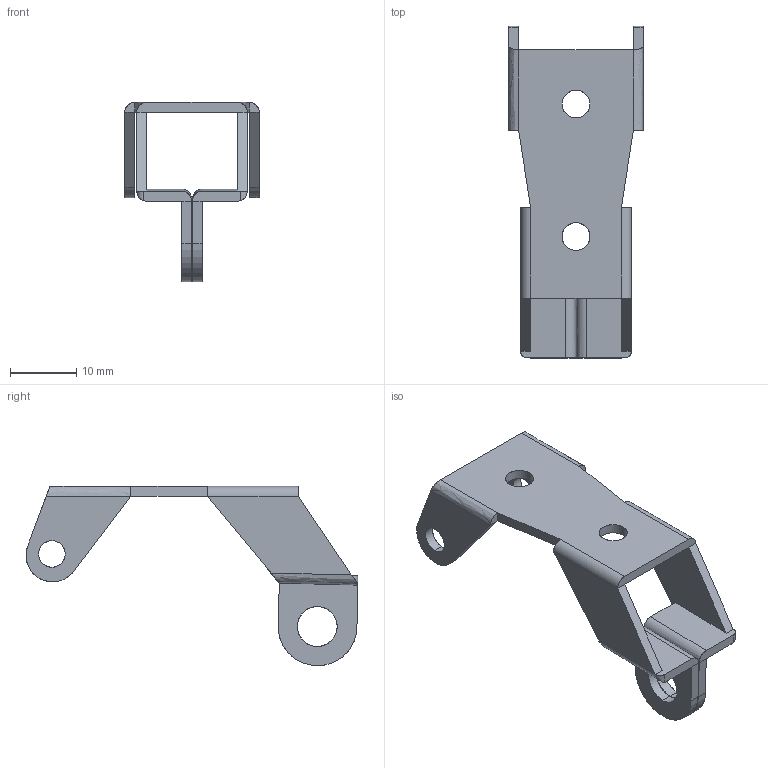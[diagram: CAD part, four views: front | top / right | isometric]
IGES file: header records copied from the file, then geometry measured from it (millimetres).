
Start section: SolidWorks IGES FILE using analytic representation for surfaces
Global section: file name: C:\WINNT\Profiles\cbrechard\Bureau\GE 44\28.020.00.IGS; native system: SolidWorks 2001Plus by SolidWorks Corporation; preprocessor: Version 5.3; author: CBRECHARD; date: 050125.133254; units: millimetre
Bounding box: 20.3 x 50.1 x 27.05 mm (x, y, z)
Surface area: 3612.7 mm2 (no closed solid volume)
Topology: 0 solids, 0 shells, 73 faces, 968 edges, 968 vertices
Faces by surface type: bspline 44, revolution 29
